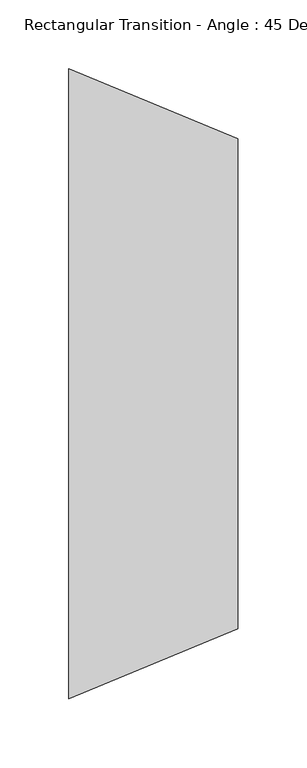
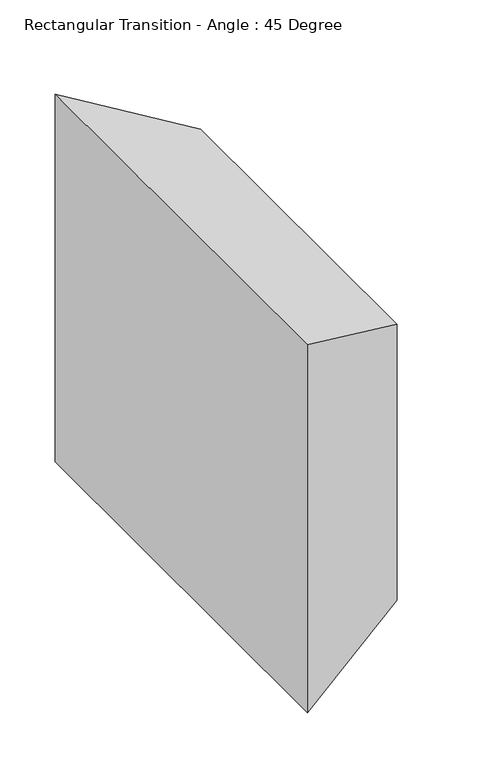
"""IFC4 building model written with IfcOpenShell, lengths in millimetres: duct fitting geometry, Rectangular Transition - Angle : 45 Degree."""

from ifc_helpers import new_model, si_unit, origin, place, context, project, spatial, faceted_brep, source, transform, mapped, element, save


def rectangular_transition_angle_45_degree_c10597de(model_context):
    return source(origin(), model_context, "Body", "Brep", [
        faceted_brep([(122.642049, -177.8, 152.4), (122.642049, -177.8, -152.4), (122.642049, 177.8, -152.4), (122.642049, 177.8, 152.4), (0.0, -228.6, 203.2), (0.0, 228.6, 203.2), (0.0, 228.6, -203.2), (0.0, -228.6, -203.2)], [[[0, 1, 2, 3]], [[4, 5, 6, 7]], [[4, 7, 1, 0]], [[7, 6, 2, 1]], [[6, 5, 3, 2]], [[5, 4, 0, 3]]]),
    ])


if __name__ == "__main__":
    model = new_model("IFC4")
    model_context = context("Model", 3, world=origin())
    ifc_project = project(units=[si_unit("LENGTHUNIT", "METRE", prefix="MILLI")], contexts=[model_context])
    site = spatial("IfcSite", under=ifc_project)
    building = spatial("IfcBuilding", under=site)
    placement = place(None, origin())
    rectangular_transition_angle_45_degree_shape = rectangular_transition_angle_45_degree_c10597de(model_context)
    element("IfcDuctFitting", 1, ObjectType="Rectangular Transition - Angle : 45 Degree", at=placement, inside=building, context=model_context, shape_type="MappedRepresentation", body=[
        mapped(rectangular_transition_angle_45_degree_shape, transform((0.0, 0.0, 0.0), x_axis=(1.0, 0.0, 0.0), y_axis=(0.0, 1.0, 0.0), z_axis=(0.0, 0.0, 1.0))),
    ])
    save(model, "model.ifc")
